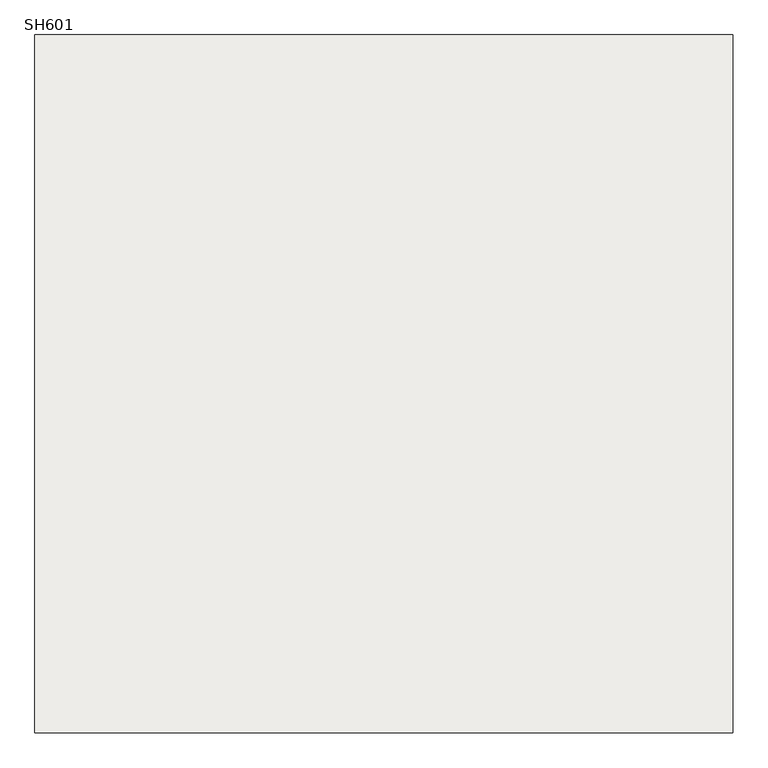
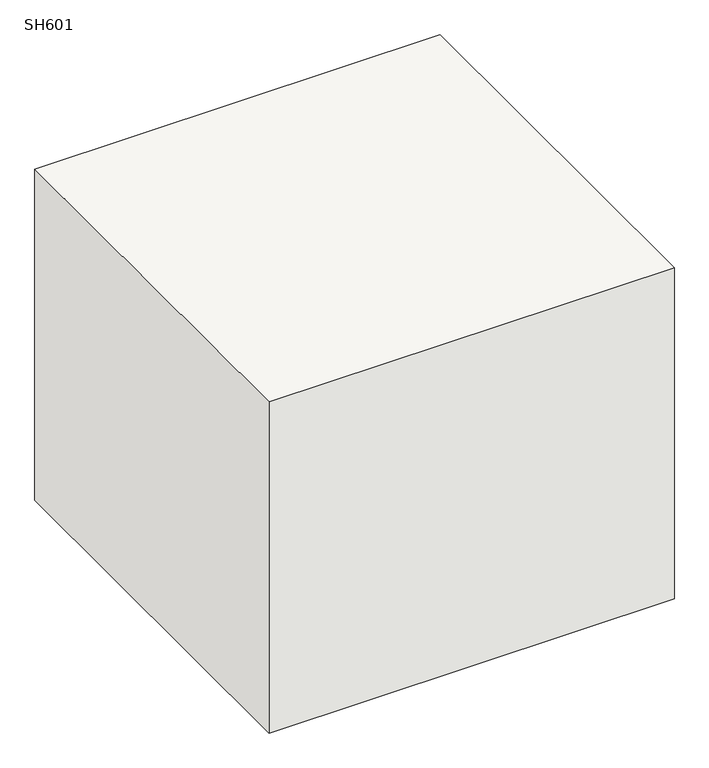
"""IFC4 building model written with IfcOpenShell, lengths in millimetres: slab geometry, 柱形_SH : SH601."""

from ifc_helpers import new_model, si_unit, frame, origin, place, context, project, spatial, polyline, outline, extrude, source, transform, mapped, element, save


def sh601_b4ec754e(model_context):
    return source(origin(), model_context, "Body", "SweptSolid", [
        extrude(outline(polyline([(550.0, 550.0), (550.0, -550.0), (-550.0, -550.0), (-550.0, 550.0), (550.0, 550.0)])), frame((0.0, 0.0, -950.0), z_axis=(0.0, 0.0, 1.0), x_axis=(1.0, 0.0, 0.0)), (0.0, 0.0, 1.0), 950.0),
    ])


if __name__ == "__main__":
    model = new_model("IFC4")
    model_context = context("Model", 3, world=origin())
    ifc_project = project(units=[si_unit("LENGTHUNIT", "METRE", prefix="MILLI")], contexts=[model_context])
    site = spatial("IfcSite", under=ifc_project)
    building = spatial("IfcBuilding", under=site)
    placement = place(None, origin())
    sh601_shape = sh601_b4ec754e(model_context)
    element("IfcSlab", 1, ObjectType="柱形_SH : SH601", at=placement, inside=building, context=model_context, shape_type="MappedRepresentation", body=[
        mapped(sh601_shape, transform((0.0, 0.0, 0.0), x_axis=(1.0, 0.0, 0.0), y_axis=(0.0, 1.0, 0.0), z_axis=(0.0, 0.0, 1.0))),
    ])
    save(model, "model.ifc")
